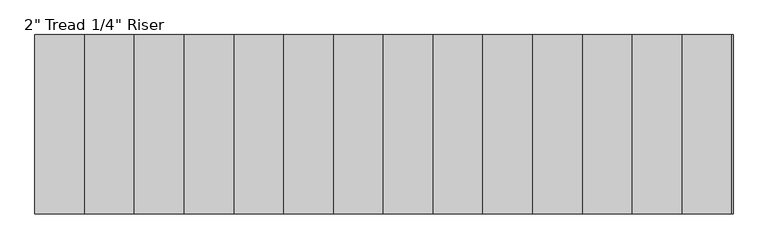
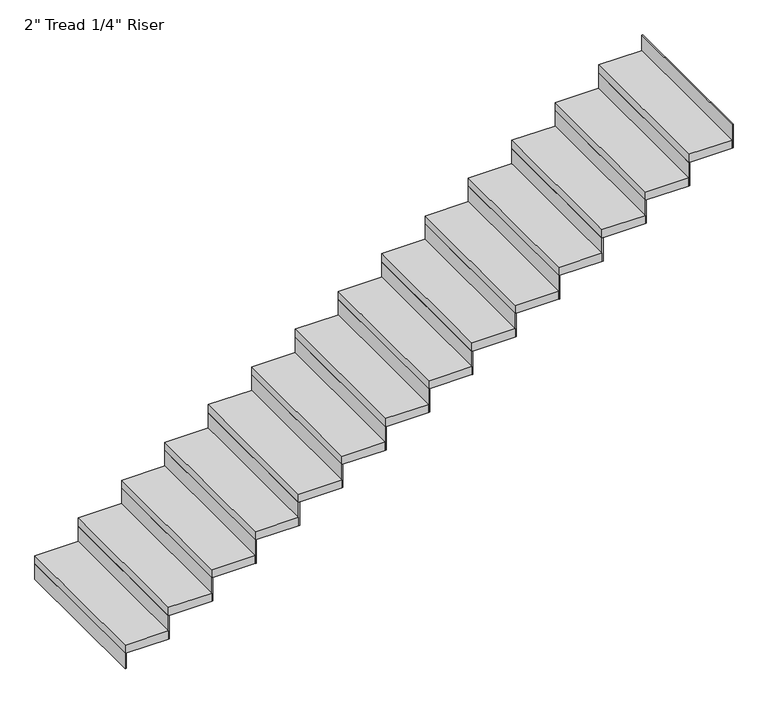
"""IFC4 building model written with IfcOpenShell, lengths in millimetres: stair flight geometry."""

from ifc_helpers import new_model, si_unit, frame, origin, origin_with_axes, place, context, project, spatial, polyline, outline, extrude, source, transform, mapped, element, save


def stair_flight_f3193430(model_context):
    return source(origin(), model_context, "Body", "SweptSolid", [
        extrude(outline(polyline([(29373.5491768, 36015.7361774), (29367.1991768, 36015.7361774), (29367.1991768, 36930.1361774), (29373.5491768, 36930.1361774), (29373.5491768, 36015.7361774)])), origin_with_axes(), (0.0, 0.0, 1.0), 94.3428571),
        extrude(outline(polyline([(29621.1991768, 36930.1361774), (29621.1991768, 36015.7361774), (29367.1991768, 36015.7361774), (29367.1991768, 36930.1361774), (29621.1991768, 36930.1361774)])), frame((0.0, 0.0, 94.3428571), z_axis=(0.0, 0.0, 1.0), x_axis=(1.0, 0.0, 0.0)), (0.0, 0.0, 1.0), 50.8),
        extrude(outline(polyline([(29627.5491768, 36015.7361774), (29621.1991768, 36015.7361774), (29621.1991768, 36930.1361774), (29627.5491768, 36930.1361774), (29627.5491768, 36015.7361774)])), frame((0.0, 0.0, 94.3428571), z_axis=(0.0, 0.0, 1.0), x_axis=(1.0, 0.0, 0.0)), (0.0, 0.0, 1.0), 145.1428571),
        extrude(outline(polyline([(29875.1991768, 36930.1361774), (29875.1991768, 36015.7361774), (29621.1991768, 36015.7361774), (29621.1991768, 36930.1361774), (29875.1991768, 36930.1361774)])), frame((0.0, 0.0, 239.4857143), z_axis=(0.0, 0.0, 1.0), x_axis=(1.0, 0.0, 0.0)), (0.0, 0.0, 1.0), 50.8),
        extrude(outline(polyline([(29881.5491768, 36015.7361774), (29875.1991768, 36015.7361774), (29875.1991768, 36930.1361774), (29881.5491768, 36930.1361774), (29881.5491768, 36015.7361774)])), frame((0.0, 0.0, 239.4857143), z_axis=(0.0, 0.0, 1.0), x_axis=(1.0, 0.0, 0.0)), (0.0, 0.0, 1.0), 145.1428571),
        extrude(outline(polyline([(30129.1991768, 36930.1361774), (30129.1991768, 36015.7361774), (29875.1991768, 36015.7361774), (29875.1991768, 36930.1361774), (30129.1991768, 36930.1361774)])), frame((0.0, 0.0, 384.6285714), z_axis=(0.0, 0.0, 1.0), x_axis=(1.0, 0.0, 0.0)), (0.0, 0.0, 1.0), 50.8),
        extrude(outline(polyline([(30135.5491768, 36015.7361774), (30129.1991768, 36015.7361774), (30129.1991768, 36930.1361774), (30135.5491768, 36930.1361774), (30135.5491768, 36015.7361774)])), frame((0.0, 0.0, 384.6285714), z_axis=(0.0, 0.0, 1.0), x_axis=(1.0, 0.0, 0.0)), (0.0, 0.0, 1.0), 145.1428571),
        extrude(outline(polyline([(30383.1991768, 36930.1361774), (30383.1991768, 36015.7361774), (30129.1991768, 36015.7361774), (30129.1991768, 36930.1361774), (30383.1991768, 36930.1361774)])), frame((0.0, 0.0, 529.7714286), z_axis=(0.0, 0.0, 1.0), x_axis=(1.0, 0.0, 0.0)), (0.0, 0.0, 1.0), 50.8),
        extrude(outline(polyline([(30389.5491768, 36015.7361774), (30383.1991768, 36015.7361774), (30383.1991768, 36930.1361774), (30389.5491768, 36930.1361774), (30389.5491768, 36015.7361774)])), frame((0.0, 0.0, 529.7714286), z_axis=(0.0, 0.0, 1.0), x_axis=(1.0, 0.0, 0.0)), (0.0, 0.0, 1.0), 145.1428571),
        extrude(outline(polyline([(30637.1991768, 36930.1361774), (30637.1991768, 36015.7361774), (30383.1991768, 36015.7361774), (30383.1991768, 36930.1361774), (30637.1991768, 36930.1361774)])), frame((0.0, 0.0, 674.9142857), z_axis=(0.0, 0.0, 1.0), x_axis=(1.0, 0.0, 0.0)), (0.0, 0.0, 1.0), 50.8),
        extrude(outline(polyline([(30643.5491768, 36015.7361774), (30637.1991768, 36015.7361774), (30637.1991768, 36930.1361774), (30643.5491768, 36930.1361774), (30643.5491768, 36015.7361774)])), frame((0.0, 0.0, 674.9142857), z_axis=(0.0, 0.0, 1.0), x_axis=(1.0, 0.0, 0.0)), (0.0, 0.0, 1.0), 145.1428571),
        extrude(outline(polyline([(30891.1991768, 36930.1361774), (30891.1991768, 36015.7361774), (30637.1991768, 36015.7361774), (30637.1991768, 36930.1361774), (30891.1991768, 36930.1361774)])), frame((0.0, 0.0, 820.0571429), z_axis=(0.0, 0.0, 1.0), x_axis=(1.0, 0.0, 0.0)), (0.0, 0.0, 1.0), 50.8),
        extrude(outline(polyline([(30897.5491768, 36015.7361774), (30891.1991768, 36015.7361774), (30891.1991768, 36930.1361774), (30897.5491768, 36930.1361774), (30897.5491768, 36015.7361774)])), frame((0.0, 0.0, 820.0571429), z_axis=(0.0, 0.0, 1.0), x_axis=(1.0, 0.0, 0.0)), (0.0, 0.0, 1.0), 145.1428571),
        extrude(outline(polyline([(31145.1991768, 36930.1361774), (31145.1991768, 36015.7361774), (30891.1991768, 36015.7361774), (30891.1991768, 36930.1361774), (31145.1991768, 36930.1361774)])), frame((0.0, 0.0, 965.2), z_axis=(0.0, 0.0, 1.0), x_axis=(1.0, 0.0, 0.0)), (0.0, 0.0, 1.0), 50.8),
        extrude(outline(polyline([(31151.5491768, 36015.7361774), (31145.1991768, 36015.7361774), (31145.1991768, 36930.1361774), (31151.5491768, 36930.1361774), (31151.5491768, 36015.7361774)])), frame((0.0, 0.0, 965.2), z_axis=(0.0, 0.0, 1.0), x_axis=(1.0, 0.0, 0.0)), (0.0, 0.0, 1.0), 145.1428571),
        extrude(outline(polyline([(31399.1991768, 36930.1361774), (31399.1991768, 36015.7361774), (31145.1991768, 36015.7361774), (31145.1991768, 36930.1361774), (31399.1991768, 36930.1361774)])), frame((0.0, 0.0, 1110.3428571), z_axis=(0.0, 0.0, 1.0), x_axis=(1.0, 0.0, 0.0)), (0.0, 0.0, 1.0), 50.8),
        extrude(outline(polyline([(31405.5491768, 36015.7361774), (31399.1991768, 36015.7361774), (31399.1991768, 36930.1361774), (31405.5491768, 36930.1361774), (31405.5491768, 36015.7361774)])), frame((0.0, 0.0, 1110.3428571), z_axis=(0.0, 0.0, 1.0), x_axis=(1.0, 0.0, 0.0)), (0.0, 0.0, 1.0), 145.1428571),
        extrude(outline(polyline([(31653.1991768, 36930.1361774), (31653.1991768, 36015.7361774), (31399.1991768, 36015.7361774), (31399.1991768, 36930.1361774), (31653.1991768, 36930.1361774)])), frame((0.0, 0.0, 1255.4857143), z_axis=(0.0, 0.0, 1.0), x_axis=(1.0, 0.0, 0.0)), (0.0, 0.0, 1.0), 50.8),
        extrude(outline(polyline([(31659.5491768, 36015.7361774), (31653.1991768, 36015.7361774), (31653.1991768, 36930.1361774), (31659.5491768, 36930.1361774), (31659.5491768, 36015.7361774)])), frame((0.0, 0.0, 1255.4857143), z_axis=(0.0, 0.0, 1.0), x_axis=(1.0, 0.0, 0.0)), (0.0, 0.0, 1.0), 145.1428571),
        extrude(outline(polyline([(31907.1991768, 36930.1361774), (31907.1991768, 36015.7361774), (31653.1991768, 36015.7361774), (31653.1991768, 36930.1361774), (31907.1991768, 36930.1361774)])), frame((0.0, 0.0, 1400.6285714), z_axis=(0.0, 0.0, 1.0), x_axis=(1.0, 0.0, 0.0)), (0.0, 0.0, 1.0), 50.8),
        extrude(outline(polyline([(31913.5491768, 36015.7361774), (31907.1991768, 36015.7361774), (31907.1991768, 36930.1361774), (31913.5491768, 36930.1361774), (31913.5491768, 36015.7361774)])), frame((0.0, 0.0, 1400.6285714), z_axis=(0.0, 0.0, 1.0), x_axis=(1.0, 0.0, 0.0)), (0.0, 0.0, 1.0), 145.1428571),
        extrude(outline(polyline([(32161.1991768, 36930.1361774), (32161.1991768, 36015.7361774), (31907.1991768, 36015.7361774), (31907.1991768, 36930.1361774), (32161.1991768, 36930.1361774)])), frame((0.0, 0.0, 1545.7714286), z_axis=(0.0, 0.0, 1.0), x_axis=(1.0, 0.0, 0.0)), (0.0, 0.0, 1.0), 50.8),
        extrude(outline(polyline([(32167.5491768, 36015.7361774), (32161.1991768, 36015.7361774), (32161.1991768, 36930.1361774), (32167.5491768, 36930.1361774), (32167.5491768, 36015.7361774)])), frame((0.0, 0.0, 1545.7714286), z_axis=(0.0, 0.0, 1.0), x_axis=(1.0, 0.0, 0.0)), (0.0, 0.0, 1.0), 145.1428571),
        extrude(outline(polyline([(32415.1991768, 36930.1361774), (32415.1991768, 36015.7361774), (32161.1991768, 36015.7361774), (32161.1991768, 36930.1361774), (32415.1991768, 36930.1361774)])), frame((0.0, 0.0, 1690.9142857), z_axis=(0.0, 0.0, 1.0), x_axis=(1.0, 0.0, 0.0)), (0.0, 0.0, 1.0), 50.8),
        extrude(outline(polyline([(32421.5491768, 36015.7361774), (32415.1991768, 36015.7361774), (32415.1991768, 36930.1361774), (32421.5491768, 36930.1361774), (32421.5491768, 36015.7361774)])), frame((0.0, 0.0, 1690.9142857), z_axis=(0.0, 0.0, 1.0), x_axis=(1.0, 0.0, 0.0)), (0.0, 0.0, 1.0), 145.1428571),
        extrude(outline(polyline([(32669.1991768, 36930.1361774), (32669.1991768, 36015.7361774), (32415.1991768, 36015.7361774), (32415.1991768, 36930.1361774), (32669.1991768, 36930.1361774)])), frame((0.0, 0.0, 1836.0571429), z_axis=(0.0, 0.0, 1.0), x_axis=(1.0, 0.0, 0.0)), (0.0, 0.0, 1.0), 50.8),
        extrude(outline(polyline([(32675.5491768, 36015.7361774), (32669.1991768, 36015.7361774), (32669.1991768, 36930.1361774), (32675.5491768, 36930.1361774), (32675.5491768, 36015.7361774)])), frame((0.0, 0.0, 1836.0571429), z_axis=(0.0, 0.0, 1.0), x_axis=(1.0, 0.0, 0.0)), (0.0, 0.0, 1.0), 145.1428571),
        extrude(outline(polyline([(32929.5491768, 36015.7361774), (32923.1991768, 36015.7361774), (32923.1991768, 36930.1361774), (32929.5491768, 36930.1361774), (32929.5491768, 36015.7361774)])), frame((0.0, 0.0, 1981.2), z_axis=(0.0, 0.0, 1.0), x_axis=(1.0, 0.0, 0.0)), (0.0, 0.0, 1.0), 145.1428571),
        extrude(outline(polyline([(32923.1991768, 36930.1361774), (32923.1991768, 36015.7361774), (32669.1991768, 36015.7361774), (32669.1991768, 36930.1361774), (32923.1991768, 36930.1361774)])), frame((0.0, 0.0, 1981.2), z_axis=(0.0, 0.0, 1.0), x_axis=(1.0, 0.0, 0.0)), (0.0, 0.0, 1.0), 50.8),
    ])


if __name__ == "__main__":
    model = new_model("IFC4")
    model_context = context("Model", 3, world=origin())
    ifc_project = project(units=[si_unit("LENGTHUNIT", "METRE", prefix="MILLI")], contexts=[model_context])
    site = spatial("IfcSite", under=ifc_project)
    building = spatial("IfcBuilding", under=site)
    placement = place(None, origin())
    stair_flight_shape = stair_flight_f3193430(model_context)
    element("IfcStairFlight", 1, ObjectType="2\" Tread 1/4\" Riser", at=placement, inside=building, context=model_context, shape_type="MappedRepresentation", body=[
        mapped(stair_flight_shape, transform((0.0, 0.0, 0.0), x_axis=(1.0, 0.0, 0.0), y_axis=(0.0, 1.0, 0.0), z_axis=(0.0, 0.0, 1.0))),
    ])
    save(model, "model.ifc")
